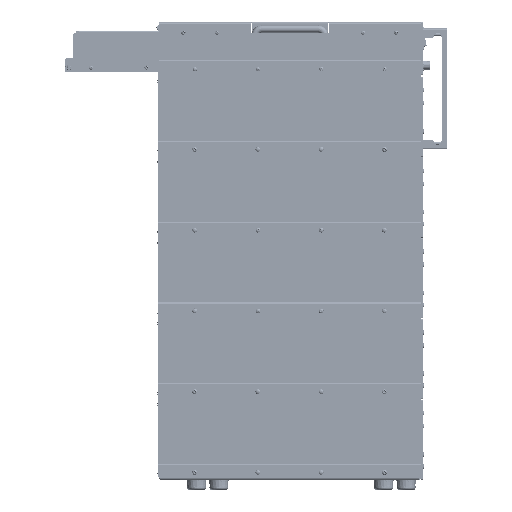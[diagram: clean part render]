
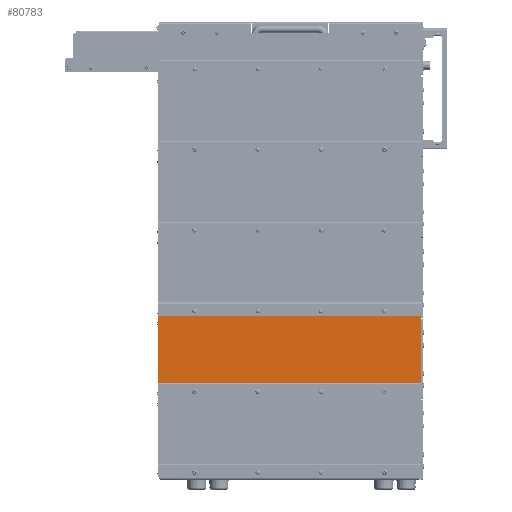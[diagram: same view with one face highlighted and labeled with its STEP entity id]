
A CAD part, left-side view. The second image highlights one B-rep face of the part: STEP entity #80783.
In plain terms, the highlighted planar face has unit normal (-1, 0, 0).
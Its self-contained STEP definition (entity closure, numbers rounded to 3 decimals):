
#80783=ADVANCED_FACE('',(#166477,#166478,#166479,#166480,#166481),#166482,.T.);
#166477=FACE_OUTER_BOUND('',#263494,.T.);
#166478=FACE_BOUND('',#263495,.T.);
#166479=FACE_BOUND('',#263496,.T.);
#166480=FACE_BOUND('',#263497,.T.);
#166481=FACE_BOUND('',#263498,.T.);
#166482=PLANE('',#263499);
#263494=EDGE_LOOP('',(#487808,#487809,#487810,#487811,#487812,#487813,#487814,#487815));
#263495=EDGE_LOOP('',(#487816,#487817));
#263496=EDGE_LOOP('',(#487818,#487819));
#263497=EDGE_LOOP('',(#487820,#487821));
#263498=EDGE_LOOP('',(#487822,#487823));
#263499=AXIS2_PLACEMENT_3D('',#487824,#487825,#487826);
#487808=ORIENTED_EDGE('',*,*,#591618,.F.);
#487809=ORIENTED_EDGE('',*,*,#591626,.T.);
#487810=ORIENTED_EDGE('',*,*,#591637,.F.);
#487811=ORIENTED_EDGE('',*,*,#591613,.F.);
#487812=ORIENTED_EDGE('',*,*,#591661,.T.);
#487813=ORIENTED_EDGE('',*,*,#591679,.F.);
#487814=ORIENTED_EDGE('',*,*,#591680,.F.);
#487815=ORIENTED_EDGE('',*,*,#591620,.F.);
#487816=ORIENTED_EDGE('',*,*,#591596,.T.);
#487817=ORIENTED_EDGE('',*,*,#591663,.T.);
#487818=ORIENTED_EDGE('',*,*,#591591,.T.);
#487819=ORIENTED_EDGE('',*,*,#591665,.T.);
#487820=ORIENTED_EDGE('',*,*,#591586,.T.);
#487821=ORIENTED_EDGE('',*,*,#591667,.T.);
#487822=ORIENTED_EDGE('',*,*,#591581,.T.);
#487823=ORIENTED_EDGE('',*,*,#591669,.T.);
#487824=CARTESIAN_POINT('',(546.234,604.229,-376.002));
#487825=DIRECTION('',(-1.0,0.,0.));
#487826=DIRECTION('',(0.,0.,1.0));
#591581=EDGE_CURVE('',#731855,#731852,#731856,.T.);
#591586=EDGE_CURVE('',#731864,#731861,#731865,.T.);
#591591=EDGE_CURVE('',#731873,#731870,#731874,.T.);
#591596=EDGE_CURVE('',#731882,#731879,#731883,.T.);
#591613=EDGE_CURVE('',#731911,#731907,#731913,.T.);
#591618=EDGE_CURVE('',#731920,#731916,#731922,.T.);
#591620=EDGE_CURVE('',#731916,#731924,#731925,.T.);
#591626=EDGE_CURVE('',#731920,#731932,#731934,.T.);
#591637=EDGE_CURVE('',#731907,#731932,#731947,.T.);
#591661=EDGE_CURVE('',#731911,#731977,#731979,.T.);
#591663=EDGE_CURVE('',#731879,#731882,#731981,.T.);
#591665=EDGE_CURVE('',#731870,#731873,#731983,.T.);
#591667=EDGE_CURVE('',#731861,#731864,#731985,.T.);
#591669=EDGE_CURVE('',#731852,#731855,#731987,.T.);
#591679=EDGE_CURVE('',#731997,#731977,#731998,.T.);
#591680=EDGE_CURVE('',#731924,#731997,#731999,.T.);
#731852=VERTEX_POINT('',#924183);
#731855=VERTEX_POINT('',#924187);
#731856=CIRCLE('',#924188,2.5);
#731861=VERTEX_POINT('',#924194);
#731864=VERTEX_POINT('',#924198);
#731865=CIRCLE('',#924199,2.5);
#731870=VERTEX_POINT('',#924205);
#731873=VERTEX_POINT('',#924209);
#731874=CIRCLE('',#924210,2.5);
#731879=VERTEX_POINT('',#924216);
#731882=VERTEX_POINT('',#924220);
#731883=CIRCLE('',#924221,2.5);
#731907=VERTEX_POINT('',#924250);
#731911=VERTEX_POINT('',#924255);
#731913=CIRCLE('',#924258,1.457);
#731916=VERTEX_POINT('',#924261);
#731920=VERTEX_POINT('',#924266);
#731922=CIRCLE('',#924269,2.538);
#731924=VERTEX_POINT('',#924271);
#731925=CIRCLE('',#924272,2.538);
#731932=VERTEX_POINT('',#924281);
#731934=LINE('',#924284,#924285);
#731947=CIRCLE('',#924301,1.457);
#731977=VERTEX_POINT('',#924340);
#731979=LINE('',#924343,#924344);
#731981=CIRCLE('',#924346,2.5);
#731983=CIRCLE('',#924348,2.5);
#731985=CIRCLE('',#924350,2.5);
#731987=CIRCLE('',#924352,2.5);
#731997=VERTEX_POINT('',#924362);
#731998=LINE('',#924363,#924364);
#731999=LINE('',#924365,#924366);
#924183=CARTESIAN_POINT('',(546.234,974.979,-320.577));
#924187=CARTESIAN_POINT('',(546.234,979.979,-320.577));
#924188=AXIS2_PLACEMENT_3D('',#1046797,#1046798,#1046799);
#924194=CARTESIAN_POINT('',(546.234,870.559,-320.577));
#924198=CARTESIAN_POINT('',(546.234,875.559,-320.577));
#924199=AXIS2_PLACEMENT_3D('',#1046805,#1046806,#1046807);
#924205=CARTESIAN_POINT('',(546.234,766.149,-320.577));
#924209=CARTESIAN_POINT('',(546.234,771.149,-320.577));
#924210=AXIS2_PLACEMENT_3D('',#1046813,#1046814,#1046815);
#924216=CARTESIAN_POINT('',(546.234,661.729,-320.577));
#924220=CARTESIAN_POINT('',(546.234,666.729,-320.577));
#924221=AXIS2_PLACEMENT_3D('',#1046821,#1046822,#1046823);
#924250=CARTESIAN_POINT('',(546.234,1037.053,-312.754));
#924255=CARTESIAN_POINT('',(546.234,1037.479,-313.784));
#924258=AXIS2_PLACEMENT_3D('',#1046849,#1046850,#1046851);
#924261=CARTESIAN_POINT('',(546.234,604.973,-313.071));
#924266=CARTESIAN_POINT('',(546.234,606.767,-312.327));
#924269=AXIS2_PLACEMENT_3D('',#1046857,#1046858,#1046859);
#924271=CARTESIAN_POINT('',(546.234,604.229,-314.865));
#924272=AXIS2_PLACEMENT_3D('',#1046860,#1046861,#1046862);
#924281=CARTESIAN_POINT('',(546.234,1036.023,-312.327));
#924284=CARTESIAN_POINT('',(546.234,604.229,-312.327));
#924285=VECTOR('',#1046869,1.0);
#924301=AXIS2_PLACEMENT_3D('',#1046888,#1046889,#1046890);
#924340=CARTESIAN_POINT('',(546.234,1037.479,-439.677));
#924343=CARTESIAN_POINT('',(546.234,1037.479,-312.327));
#924344=VECTOR('',#1046925,1.0);
#924346=AXIS2_PLACEMENT_3D('',#1046926,#1046927,#1046928);
#924348=AXIS2_PLACEMENT_3D('',#1046929,#1046930,#1046931);
#924350=AXIS2_PLACEMENT_3D('',#1046932,#1046933,#1046934);
#924352=AXIS2_PLACEMENT_3D('',#1046935,#1046936,#1046937);
#924362=CARTESIAN_POINT('',(546.234,604.229,-439.677));
#924363=CARTESIAN_POINT('',(546.234,604.229,-439.677));
#924364=VECTOR('',#1046950,1.0);
#924365=CARTESIAN_POINT('',(546.234,604.229,-312.327));
#924366=VECTOR('',#1046951,1.0);
#1046797=CARTESIAN_POINT('',(546.234,977.479,-320.577));
#1046798=DIRECTION('',(1.0,0.,0.));
#1046799=DIRECTION('',(0.,-1.0,0.));
#1046805=CARTESIAN_POINT('',(546.234,873.059,-320.577));
#1046806=DIRECTION('',(1.0,0.,0.));
#1046807=DIRECTION('',(0.,-1.0,0.));
#1046813=CARTESIAN_POINT('',(546.234,768.649,-320.577));
#1046814=DIRECTION('',(1.0,0.,0.));
#1046815=DIRECTION('',(0.,-1.0,0.));
#1046821=CARTESIAN_POINT('',(546.234,664.229,-320.577));
#1046822=DIRECTION('',(1.0,0.,0.));
#1046823=DIRECTION('',(0.,-1.0,0.));
#1046849=CARTESIAN_POINT('',(546.234,1036.023,-313.784));
#1046850=DIRECTION('',(1.0,0.,0.));
#1046851=DIRECTION('',(0.,0.707,0.707));
#1046857=CARTESIAN_POINT('',(546.234,606.767,-314.865));
#1046858=DIRECTION('',(1.0,0.,0.));
#1046859=DIRECTION('',(0.,-0.707,0.707));
#1046860=CARTESIAN_POINT('',(546.234,606.767,-314.865));
#1046861=DIRECTION('',(1.0,0.,0.));
#1046862=DIRECTION('',(0.,-0.707,0.707));
#1046869=DIRECTION('',(0.0,1.0,0.0));
#1046888=CARTESIAN_POINT('',(546.234,1036.023,-313.784));
#1046889=DIRECTION('',(1.0,0.,0.));
#1046890=DIRECTION('',(0.,0.707,0.707));
#1046925=DIRECTION('',(0.0,0.0,-1.0));
#1046926=CARTESIAN_POINT('',(546.234,664.229,-320.577));
#1046927=DIRECTION('',(1.0,0.,0.));
#1046928=DIRECTION('',(0.,-1.0,0.));
#1046929=CARTESIAN_POINT('',(546.234,768.649,-320.577));
#1046930=DIRECTION('',(1.0,0.,0.));
#1046931=DIRECTION('',(0.,-1.0,0.));
#1046932=CARTESIAN_POINT('',(546.234,873.059,-320.577));
#1046933=DIRECTION('',(1.0,0.,0.));
#1046934=DIRECTION('',(0.,-1.0,0.));
#1046935=CARTESIAN_POINT('',(546.234,977.479,-320.577));
#1046936=DIRECTION('',(1.0,0.,0.));
#1046937=DIRECTION('',(0.,-1.0,0.));
#1046950=DIRECTION('',(0.0,1.0,0.0));
#1046951=DIRECTION('',(0.0,0.0,-1.0));
